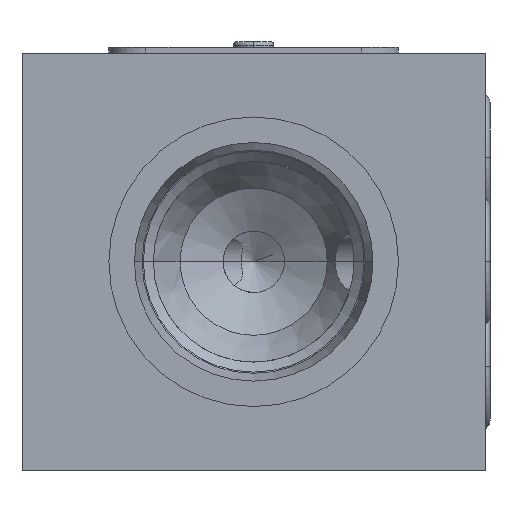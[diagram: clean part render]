
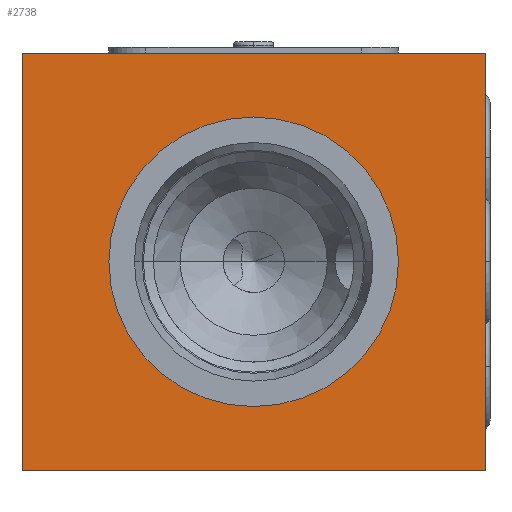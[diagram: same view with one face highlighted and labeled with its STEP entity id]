
A CAD part, left-side view. The second image highlights one B-rep face of the part: STEP entity #2738.
In plain terms, the highlighted planar face has unit normal (-1, 0, 0).
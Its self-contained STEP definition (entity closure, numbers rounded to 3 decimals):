
#55=DIRECTION('',(0.,0.,-1.));
#56=VECTOR('',#55,36.);
#57=CARTESIAN_POINT('',(0.,0.,0.));
#58=LINE('',#57,#56);
#62=DIRECTION('',(0.,1.,0.));
#63=VECTOR('',#62,40.);
#64=CARTESIAN_POINT('',(0.,0.,-36.));
#65=LINE('',#64,#63);
#69=DIRECTION('',(0.,0.,1.));
#70=VECTOR('',#69,36.);
#71=CARTESIAN_POINT('',(0.,40.,-36.));
#72=LINE('',#71,#70);
#76=DIRECTION('',(0.,-1.,0.));
#77=VECTOR('',#76,40.);
#78=CARTESIAN_POINT('',(0.,40.,0.));
#79=LINE('',#78,#77);
#83=CARTESIAN_POINT('',(0.,20.,-18.));
#84=DIRECTION('',(1.,0.,0.));
#85=DIRECTION('',(0.,-1.,0.));
#86=AXIS2_PLACEMENT_3D('',#83,#84,#85);
#91=CARTESIAN_POINT('',(0.,20.,-18.));
#92=DIRECTION('',(1.,0.,0.));
#93=DIRECTION('',(0.,1.,0.));
#94=AXIS2_PLACEMENT_3D('',#91,#92,#93);
#2441=CARTESIAN_POINT('',(0.,0.,0.));
#2442=CARTESIAN_POINT('',(0.,0.,-36.));
#2443=VERTEX_POINT('',#2441);
#2444=VERTEX_POINT('',#2442);
#2445=CARTESIAN_POINT('',(0.,40.,-36.));
#2446=VERTEX_POINT('',#2445);
#2447=CARTESIAN_POINT('',(0.,40.,0.));
#2448=VERTEX_POINT('',#2447);
#2559=CARTESIAN_POINT('',(0.,7.5,-18.));
#2560=VERTEX_POINT('',#2559);
#2561=CARTESIAN_POINT('',(0.,32.5,-18.));
#2562=VERTEX_POINT('',#2561);
#2717=CARTESIAN_POINT('',(0.,0.,0.));
#2718=DIRECTION('',(1.,0.,0.));
#2719=DIRECTION('',(0.,0.,-1.));
#2720=AXIS2_PLACEMENT_3D('',#2717,#2718,#2719);
#2721=PLANE('',#2720);
#2723=ORIENTED_EDGE('',*,*,#2722,.T.);
#2725=ORIENTED_EDGE('',*,*,#2724,.T.);
#2727=ORIENTED_EDGE('',*,*,#2726,.T.);
#2729=ORIENTED_EDGE('',*,*,#2728,.T.);
#2730=EDGE_LOOP('',(#2723,#2725,#2727,#2729));
#2731=FACE_OUTER_BOUND('',#2730,.F.);
#2733=ORIENTED_EDGE('',*,*,#2732,.F.);
#2735=ORIENTED_EDGE('',*,*,#2734,.F.);
#2736=EDGE_LOOP('',(#2733,#2735));
#2737=FACE_BOUND('',#2736,.F.);
#87=CIRCLE('',#86,12.5);
#95=CIRCLE('',#94,12.5);
#2722=EDGE_CURVE('',#2443,#2444,#58,.T.);
#2724=EDGE_CURVE('',#2444,#2446,#65,.T.);
#2726=EDGE_CURVE('',#2446,#2448,#72,.T.);
#2728=EDGE_CURVE('',#2448,#2443,#79,.T.);
#2732=EDGE_CURVE('',#2560,#2562,#87,.T.);
#2734=EDGE_CURVE('',#2562,#2560,#95,.T.);
#2738=ADVANCED_FACE('',(#2731,#2737),#2721,.F.);
